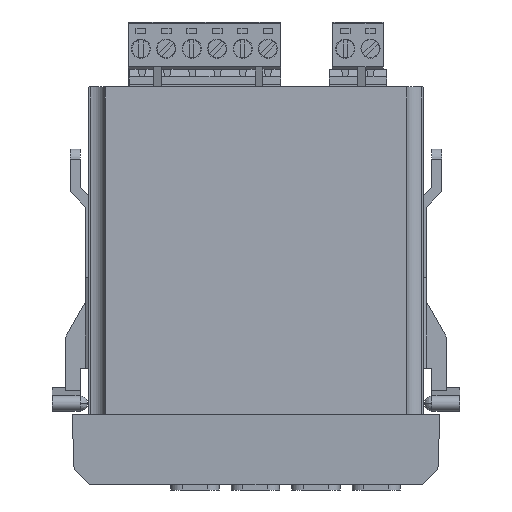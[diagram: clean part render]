
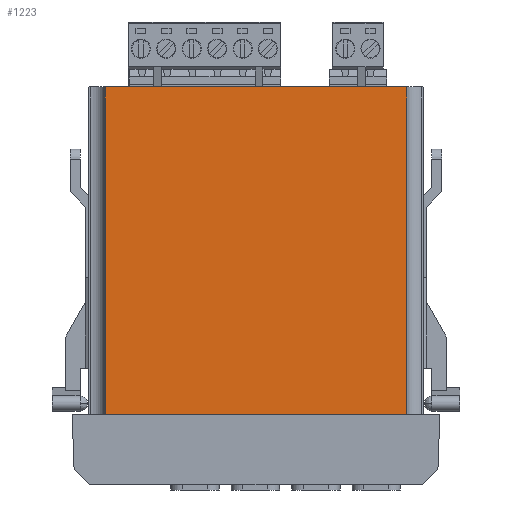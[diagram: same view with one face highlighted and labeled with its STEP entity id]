
A CAD part, front view. The second image highlights one B-rep face of the part: STEP entity #1223.
In plain terms, the highlighted planar face has unit normal (0, -1, 0.003).
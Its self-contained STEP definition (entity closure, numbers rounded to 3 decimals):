
#377 = LINE ( 'NONE', #39886, #26600 ) ;
#654 = VECTOR ( 'NONE', #19466, 1000. ) ;
#1135 = EDGE_CURVE ( 'NONE', #14827, #34563, #35239, .T. ) ;
#1161 = EDGE_CURVE ( 'NONE', #34563, #19463, #14921, .T. ) ;
#1223 = ADVANCED_FACE ( 'NONE', ( #38390 ), #16234, .T. ) ;
#2113 = ORIENTED_EDGE ( 'NONE', *, *, #1161, .T. ) ;
#2446 = CARTESIAN_POINT ( 'NONE',  ( -11.77, -33.15, 0. ) ) ;
#2563 = VECTOR ( 'NONE', #33695, 1000. ) ;
#3566 = EDGE_CURVE ( 'NONE', #17767, #16511, #29087, .T. ) ;
#5771 = AXIS2_PLACEMENT_3D ( 'NONE', #9370, #13243, #40545 ) ;
#6564 = CARTESIAN_POINT ( 'NONE',  ( -29.88, -33.32, -65. ) ) ;
#7697 = VERTEX_POINT ( 'NONE', #13121 ) ;
#9370 = CARTESIAN_POINT ( 'NONE',  ( 0., -33.15, 0. ) ) ;
#9686 = ORIENTED_EDGE ( 'NONE', *, *, #1135, .T. ) ;
#9926 = DIRECTION ( 'NONE',  ( 0., -0.003, -1. ) ) ;
#10455 = CARTESIAN_POINT ( 'NONE',  ( 29.88, -33.15, 0. ) ) ;
#10685 = VERTEX_POINT ( 'NONE', #23630 ) ;
#10775 = LINE ( 'NONE', #30670, #31635 ) ;
#12453 = EDGE_CURVE ( 'NONE', #15308, #14827, #10775, .T. ) ;
#12513 = CARTESIAN_POINT ( 'NONE',  ( -29.88, -33.15, 0. ) ) ;
#13075 = DIRECTION ( 'NONE',  ( 0., 0.003, 1. ) ) ;
#13121 = CARTESIAN_POINT ( 'NONE',  ( -29.88, -33.15, 0. ) ) ;
#13243 = DIRECTION ( 'NONE',  ( 0., -1., 0.003 ) ) ;
#14170 = LINE ( 'NONE', #12513, #20003 ) ;
#14276 = CARTESIAN_POINT ( 'NONE',  ( 11.53, -33.328, -67.903 ) ) ;
#14623 = ORIENTED_EDGE ( 'NONE', *, *, #28955, .T. ) ;
#14827 = VERTEX_POINT ( 'NONE', #26814 ) ;
#14921 = LINE ( 'NONE', #2446, #18096 ) ;
#15308 = VERTEX_POINT ( 'NONE', #26472 ) ;
#15943 = DIRECTION ( 'NONE',  ( 0., -0.003, -1. ) ) ;
#16234 = PLANE ( 'NONE',  #5771 ) ;
#16433 = VECTOR ( 'NONE', #43947, 1000. ) ;
#16511 = VERTEX_POINT ( 'NONE', #24743 ) ;
#16805 = CARTESIAN_POINT ( 'NONE',  ( -11.77, -33.32, -65. ) ) ;
#17282 = LINE ( 'NONE', #34625, #24187 ) ;
#17767 = VERTEX_POINT ( 'NONE', #39565 ) ;
#18096 = VECTOR ( 'NONE', #26974, 1000. ) ;
#18233 = LINE ( 'NONE', #24069, #32102 ) ;
#18405 = EDGE_CURVE ( 'NONE', #7697, #21611, #14170, .T. ) ;
#18929 = VECTOR ( 'NONE', #13075, 1000. ) ;
#19112 = CARTESIAN_POINT ( 'NONE',  ( -11.77, -33.328, -67.903 ) ) ;
#19297 = EDGE_CURVE ( 'NONE', #21611, #15308, #27395, .T. ) ;
#19416 = DIRECTION ( 'NONE',  ( 1., 0., 0. ) ) ;
#19422 = CARTESIAN_POINT ( 'NONE',  ( 29.88, -33.32, -65. ) ) ;
#19463 = VERTEX_POINT ( 'NONE', #16805 ) ;
#19466 = DIRECTION ( 'NONE',  ( 1., 0., 0. ) ) ;
#20003 = VECTOR ( 'NONE', #15943, 1000. ) ;
#20392 = ORIENTED_EDGE ( 'NONE', *, *, #12453, .T. ) ;
#21127 = ORIENTED_EDGE ( 'NONE', *, *, #22828, .T. ) ;
#21611 = VERTEX_POINT ( 'NONE', #6564 ) ;
#22828 = EDGE_CURVE ( 'NONE', #16511, #30157, #377, .T. ) ;
#22926 = VERTEX_POINT ( 'NONE', #10455 ) ;
#23630 = CARTESIAN_POINT ( 'NONE',  ( 11.53, -33.32, -65. ) ) ;
#23992 = VECTOR ( 'NONE', #38805, 1000. ) ;
#24069 = CARTESIAN_POINT ( 'NONE',  ( 11.53, -33.15, 0. ) ) ;
#24187 = VECTOR ( 'NONE', #34484, 1000. ) ;
#24743 = CARTESIAN_POINT ( 'NONE',  ( 17.48, -33.32, -65. ) ) ;
#25193 = EDGE_CURVE ( 'NONE', #39023, #17767, #17282, .T. ) ;
#25547 = LINE ( 'NONE', #27896, #43214 ) ;
#26472 = CARTESIAN_POINT ( 'NONE',  ( -17.72, -33.32, -65. ) ) ;
#26600 = VECTOR ( 'NONE', #19416, 1000. ) ;
#26814 = CARTESIAN_POINT ( 'NONE',  ( -17.72, -33.328, -67.903 ) ) ;
#26974 = DIRECTION ( 'NONE',  ( 0., 0.003, 1. ) ) ;
#27095 = LINE ( 'NONE', #33945, #16433 ) ;
#27395 = LINE ( 'NONE', #40219, #654 ) ;
#27896 = CARTESIAN_POINT ( 'NONE',  ( 0., -33.32, -65. ) ) ;
#28206 = CARTESIAN_POINT ( 'NONE',  ( 0., -33.15, 0. ) ) ;
#28486 = DIRECTION ( 'NONE',  ( 1., 0., 0. ) ) ;
#28955 = EDGE_CURVE ( 'NONE', #30157, #22926, #27095, .T. ) ;
#29087 = LINE ( 'NONE', #29947, #18929 ) ;
#29947 = CARTESIAN_POINT ( 'NONE',  ( 17.48, -33.15, 0. ) ) ;
#30157 = VERTEX_POINT ( 'NONE', #19422 ) ;
#30670 = CARTESIAN_POINT ( 'NONE',  ( -17.72, -33.15, 0. ) ) ;
#31635 = VECTOR ( 'NONE', #9926, 1000. ) ;
#32008 = ORIENTED_EDGE ( 'NONE', *, *, #37153, .T. ) ;
#32102 = VECTOR ( 'NONE', #34259, 1000. ) ;
#33091 = LINE ( 'NONE', #28206, #23992 ) ;
#33249 = CARTESIAN_POINT ( 'NONE',  ( 0., -33.328, -67.903 ) ) ;
#33695 = DIRECTION ( 'NONE',  ( 1., 0., 0. ) ) ;
#33945 = CARTESIAN_POINT ( 'NONE',  ( 29.88, -33.15, 0. ) ) ;
#34259 = DIRECTION ( 'NONE',  ( 0., -0.003, -1. ) ) ;
#34363 = ORIENTED_EDGE ( 'NONE', *, *, #25193, .T. ) ;
#34484 = DIRECTION ( 'NONE',  ( 1., 0., 0. ) ) ;
#34563 = VERTEX_POINT ( 'NONE', #19112 ) ;
#34625 = CARTESIAN_POINT ( 'NONE',  ( 0., -33.328, -67.903 ) ) ;
#35239 = LINE ( 'NONE', #33249, #2563 ) ;
#37153 = EDGE_CURVE ( 'NONE', #10685, #39023, #18233, .T. ) ;
#37157 = ORIENTED_EDGE ( 'NONE', *, *, #37977, .T. ) ;
#37539 = ORIENTED_EDGE ( 'NONE', *, *, #38571, .T. ) ;
#37977 = EDGE_CURVE ( 'NONE', #22926, #7697, #33091, .T. ) ;
#38390 = FACE_OUTER_BOUND ( 'NONE', #42832, .T. ) ;
#38571 = EDGE_CURVE ( 'NONE', #19463, #10685, #25547, .T. ) ;
#38805 = DIRECTION ( 'NONE',  ( -1., 0., 0. ) ) ;
#39023 = VERTEX_POINT ( 'NONE', #14276 ) ;
#39493 = ORIENTED_EDGE ( 'NONE', *, *, #3566, .T. ) ;
#39565 = CARTESIAN_POINT ( 'NONE',  ( 17.48, -33.328, -67.903 ) ) ;
#39886 = CARTESIAN_POINT ( 'NONE',  ( 0., -33.32, -65. ) ) ;
#40185 = ORIENTED_EDGE ( 'NONE', *, *, #18405, .T. ) ;
#40219 = CARTESIAN_POINT ( 'NONE',  ( 0., -33.32, -65. ) ) ;
#40545 = DIRECTION ( 'NONE',  ( 0., -0.003, -1. ) ) ;
#41227 = ORIENTED_EDGE ( 'NONE', *, *, #19297, .T. ) ;
#42832 = EDGE_LOOP ( 'NONE', ( #14623, #37157, #40185, #41227, #20392, #9686, #2113, #37539, #32008, #34363, #39493, #21127 ) ) ;
#43214 = VECTOR ( 'NONE', #28486, 1000. ) ;
#43947 = DIRECTION ( 'NONE',  ( 0., 0.003, 1. ) ) ;
